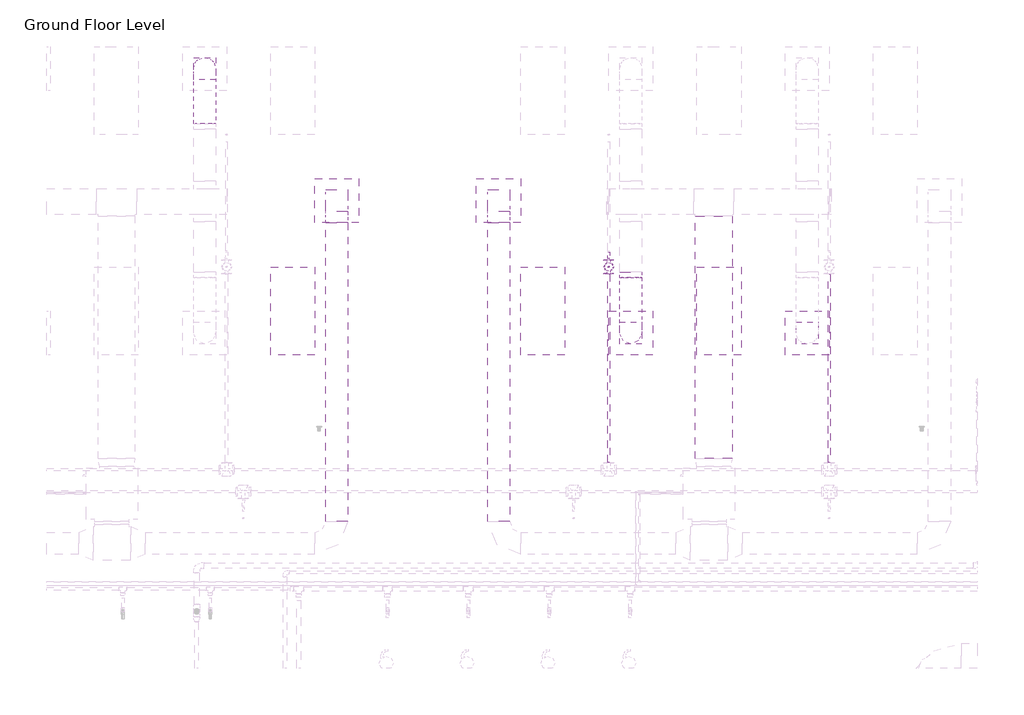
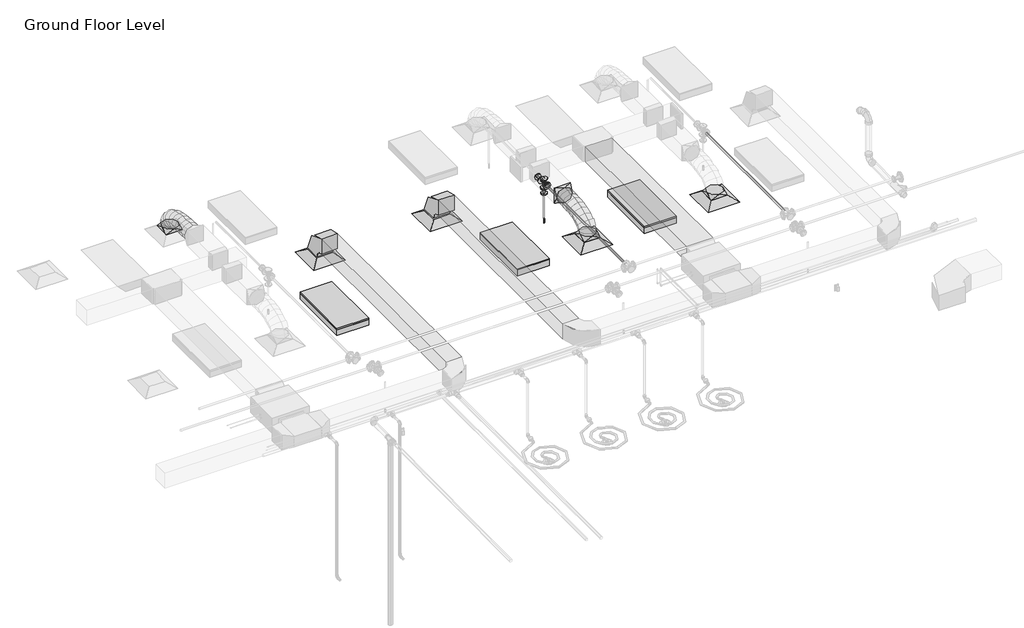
# One storey, part 56 of 74: 7 duct segments, 6 duct fittings, 4 air terminals, 3 light fixtures, 3 pipe fittings, 3 pipe segments, 1 fire suppression terminal.
"""IFC4 building model written with IfcOpenShell, lengths in millimetres."""

from ifc_helpers import new_model, si_unit, point, frame, frame_2d, origin, place, context, project, spatial, polyline, circle_curve, ellipse_curve, trimmed, segment, composite_curve, outline, extrude, transform, mapped, element, save
from ifc_brep_helpers import plane_surface, cylinder_surface, advanced_brep
from components import m_return_diffuser_600_x_600_face_300_x_300_connection_ff221211, m_rectangular_elbow_radius_1_w_618da153, m_rectangular_to_round_transition_angle_45_degree_641efff0, m_sprinkler_dry_pendent_hosted_15_mm_dry_pendent_9bda8e11, m_troffer_light_parabolic_rectangular1_0600x1200mm_4_lamp_86473d4a, m_reducer_flanged_cs_class_150_standard_d42b2106, m_tee_round_base_flanged_cs_class_150_standard_7e5987a1

model = new_model("IFC4")

# Units and contexts
model_context = context("Model", 3, world=origin())
ifc_project = project(units=[si_unit("LENGTHUNIT", "METRE", prefix="MILLI")], contexts=[model_context])

# Site, building, storey
site = spatial("IfcSite", under=ifc_project)
building = spatial("IfcBuilding", under=site)
storey = spatial("IfcBuildingStorey", under=building, Name="Ground Floor Level", Elevation=900.0)

# Air terminals
placement = place(None, origin())
m_return_diffuser_600_x_600_face_300_x_300_connection_shape = m_return_diffuser_600_x_600_face_300_x_300_connection_ff221211(model_context)
element("IfcAirTerminal", 1, ObjectType="M_Return Diffuser : 600 x 600 Face 300 x 300 Connection", at=placement, inside=storey, context=model_context, shape_type="MappedRepresentation", body=[
    mapped(m_return_diffuser_600_x_600_face_300_x_300_connection_shape, transform((-14937.2327605, 18735.2153534, 3650.0), x_axis=(1.0, 0.0, 0.0), y_axis=(0.0, 1.0, 0.0), z_axis=(0.0, 0.0, 1.0))),
])
element("IfcAirTerminal", 2, ObjectType="M_Return Diffuser : 600 x 600 Face 300 x 300 Connection", at=placement, inside=storey, context=model_context, shape_type="MappedRepresentation", body=[
    mapped(m_return_diffuser_600_x_600_face_300_x_300_connection_shape, transform((-12737.2327605, 18735.2153534, 3650.0), x_axis=(1.0, 0.0, 0.0), y_axis=(0.0, 1.0, 0.0), z_axis=(0.0, 0.0, 1.0))),
])
element("IfcAirTerminal", 3, ObjectType="M_Supply Diffuser : 600 x 600 Face 300 x 300 Connection", at=placement, inside=storey, context=model_context, shape_type="MappedRepresentation", body=[
    mapped(m_return_diffuser_600_x_600_face_300_x_300_connection_shape, transform((-10937.2327605, 16935.2153534, 3650.0), x_axis=(1.0, 0.0, 0.0), y_axis=(0.0, 1.0, 0.0), z_axis=(0.0, 0.0, 1.0))),
])
element("IfcAirTerminal", 4, ObjectType="M_Supply Diffuser : 600 x 600 Face 300 x 300 Connection", at=placement, inside=storey, context=model_context, shape_type="MappedRepresentation", body=[
    mapped(m_return_diffuser_600_x_600_face_300_x_300_connection_shape, transform((-8537.2327605, 16935.2153534, 3650.0), x_axis=(1.0, 0.0, 0.0), y_axis=(0.0, 1.0, 0.0), z_axis=(0.0, 0.0, 1.0))),
])

# Duct fittings
m_rectangular_elbow_radius_1_w_shape = m_rectangular_elbow_radius_1_w_618da153(model_context)
element("IfcDuctFitting", 5, ObjectType="M_Rectangular Elbow - Radius : 1 W", at=placement, inside=storey, context=model_context, shape_type="MappedRepresentation", body=[
    mapped(m_rectangular_elbow_radius_1_w_shape, transform((-14937.2327605, 18735.2153534, 4075.2881511), x_axis=(0.0, 0.0, 1.0), y_axis=(0.0, -1.0, 0.0), z_axis=(1.0, 0.0, 0.0))),
])
element("IfcDuctFitting", 6, ObjectType="M_Rectangular Elbow - Radius : 1 W", at=placement, inside=storey, context=model_context, shape_type="MappedRepresentation", body=[
    mapped(m_rectangular_elbow_radius_1_w_shape, transform((-12737.2327605, 18735.2153534, 4075.2872564), x_axis=(0.0, 0.0, 1.0), y_axis=(0.0, -1.0, 0.0), z_axis=(1.0, 0.0, 0.0))),
])
m_rectangular_to_round_transition_angle_45_degree_shape = m_rectangular_to_round_transition_angle_45_degree_641efff0(model_context)
element("IfcDuctFitting", 7, ObjectType="M_Rectangular to Round Transition - Angle : 45 Degree", at=placement, inside=storey, context=model_context, shape_type="MappedRepresentation", body=[
    mapped(m_rectangular_to_round_transition_angle_45_degree_shape, transform((-16737.2327605, 20535.2153534, 3751.6), x_axis=(0.0, 0.0, 1.0), y_axis=(-1.0, 0.0, 0.0), z_axis=(0.0, -1.0, 0.0))),
])
element("IfcDuctFitting", 8, ObjectType="M_Rectangular to Round Transition - Angle : 45 Degree", at=placement, inside=storey, context=model_context, shape_type="MappedRepresentation", body=[
    mapped(m_rectangular_to_round_transition_angle_45_degree_shape, transform((-10937.2327605, 16935.2153534, 3751.6), x_axis=(0.0, 0.0, 1.0), y_axis=(-1.0, 0.0, 0.0), z_axis=(0.0, -1.0, 0.0))),
])
element("IfcDuctFitting", 9, ObjectType="M_Rectangular to Round Transition - Angle : 45 Degree", at=placement, inside=storey, context=model_context, shape_type="MappedRepresentation", body=[
    mapped(m_rectangular_to_round_transition_angle_45_degree_shape, transform((-10937.2327605, 17762.5527048, 4099.9985799), x_axis=(0.0, -1.0, 0.0), y_axis=(1.0, 0.0, 0.0), z_axis=(0.0, 0.0, 1.0))),
])
element("IfcDuctFitting", 10, ObjectType="M_Rectangular to Round Transition - Angle : 45 Degree", at=placement, inside=storey, context=model_context, shape_type="MappedRepresentation", body=[
    mapped(m_rectangular_to_round_transition_angle_45_degree_shape, transform((-8537.2327605, 16935.2153534, 3751.6), x_axis=(0.0, 0.0, 1.0), y_axis=(-1.0, 0.0, 0.0), z_axis=(0.0, -1.0, 0.0))),
])

# Duct segments
element("IfcDuctSegment", 11, ObjectType="Flex - Round", at=placement, inside=storey, context=model_context, shape_type="AdvancedBrep", body=[
    advanced_brep(
    [(-16587.2327605, 20535.2153534, 3826.6), (-16737.2327605, 20385.2153534, 3826.6), (-16887.2327605, 20535.2153534, 3826.6), (-16737.2327605, 20685.2153534, 3826.6), (-16587.2327605, 20535.2153534, 3857.9377382), (-16737.2327605, 20385.2153534, 3832.2944832), (-16887.2327605, 20535.2153534, 3857.9377382), (-16737.2327605, 20685.2153534, 3883.5809933), (-16587.2327605, 20518.1994031, 3906.2505845), (-16737.2327605, 20384.4614644, 3834.4349763), (-16887.2327605, 20518.1994031, 3906.2505845), (-16737.2327605, 20651.9373419, 3978.0661927), (-16587.2327605, 20471.0154746, 3968.7112839), (-16737.2327605, 20366.8096846, 3857.8018842), (-16887.2327605, 20471.0154746, 3968.7112839), (-16737.2327605, 20575.2212646, 4079.6206836), (-16587.2327605, 20399.4594512, 4016.069955), (-16737.2327605, 20330.5255676, 3881.8161806), (-16887.2327605, 20399.4594512, 4016.069955), (-16737.2327605, 20468.3933347, 4150.3237294), (-16587.2327605, 20309.3272161, 4050.4144545), (-16737.2327605, 20265.7666411, 3906.4922903), (-16887.2327605, 20309.3272161, 4050.4144545), (-16737.2327605, 20352.8877912, 4194.3366186), (-16587.2327605, 20206.4146528, 4073.832639), (-16737.2327605, 20179.8539072, 3926.0420925), (-16887.2327605, 20206.4146528, 4073.832639), (-16737.2327605, 20232.9753985, 4221.6231855), (-16587.2327605, 20096.5176446, 4088.4123653), (-16737.2327605, 20081.3668973, 3939.1080865), (-16887.2327605, 20096.5176446, 4088.4123653), (-16737.2327605, 20111.668392, 4237.7166441), (-16587.2327605, 19985.4320749, 4096.2414901), (-16737.2327605, 19977.9268673, 3946.3983665), (-16887.2327605, 19985.4320749, 4096.2414901), (-16737.2327605, 19992.9372825, 4246.0846137), (-16587.2327605, 19878.9538269, 4099.4078701), (-16737.2327605, 19876.2624046, 3949.4215972), (-16887.2327605, 19878.9538269, 4099.4078701), (-16737.2327605, 19881.6452491, 4249.3941429), (-16587.2327605, 19782.878784, 4099.9993619), (-16737.2327605, 19783.8022506, 4249.9965192), (-16887.2327605, 19782.878784, 4099.9993619), (-16737.2327605, 19781.9553174, 3950.0022045)],
    [
        (0, 1, circle_curve(frame((-16737.2327605, 20535.2153534, 3826.6), z_axis=(0.0, 0.0, -1.0), x_axis=(1.0, 0.0, 0.0)), 150.0)),
        (1, 2, circle_curve(frame((-16737.2327605, 20535.2153534, 3826.6), z_axis=(0.0, 0.0, -1.0), x_axis=(1.0, 0.0, 0.0)), 150.0)),
        (2, 3, circle_curve(frame((-16737.2327605, 20535.2153534, 3826.6), z_axis=(0.0, 0.0, -1.0), x_axis=(1.0, 0.0, 0.0)), 150.0)),
        (3, 0, circle_curve(frame((-16737.2327605, 20535.2153534, 3826.6), z_axis=(0.0, 0.0, -1.0), x_axis=(1.0, 0.0, 0.0)), 150.0)),
        (0, 4),
        (4, 5, ellipse_curve(frame((-16737.2327605, 20535.2153534, 3857.9377382), z_axis=(0.0, 0.16851035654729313, -0.9856998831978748), x_axis=(0.0, -0.9856998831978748, -0.16851035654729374)), 152.1761365, 150.0)),
        (5, 1),
        (5, 6, ellipse_curve(frame((-16737.2327605, 20535.2153534, 3857.9377382), z_axis=(0.0, 0.16851035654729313, -0.9856998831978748), x_axis=(0.0, -0.9856998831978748, -0.16851035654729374)), 152.1761365, 150.0)),
        (6, 2),
        (6, 7, ellipse_curve(frame((-16737.2327605, 20535.2153534, 3857.9377382), z_axis=(0.0, 0.16851035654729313, -0.9856998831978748), x_axis=(0.0, -0.9856998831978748, -0.16851035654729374)), 152.1761365, 150.0)),
        (7, 3),
        (7, 4, ellipse_curve(frame((-16737.2327605, 20535.2153534, 3857.9377382), z_axis=(0.0, 0.16851035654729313, -0.9856998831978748), x_axis=(0.0, -0.9856998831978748, -0.16851035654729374)), 152.1761365, 150.0)),
        (4, 8),
        (8, 9, ellipse_curve(frame((-16737.2327605, 20518.1994031, 3906.2505845), z_axis=(0.0, 0.47309279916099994, -0.8810126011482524), x_axis=(0.0, -0.8810126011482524, -0.4730927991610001)), 151.8002564, 150.0)),
        (9, 5),
        (9, 10, ellipse_curve(frame((-16737.2327605, 20518.1994031, 3906.2505845), z_axis=(0.0, 0.47309279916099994, -0.8810126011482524), x_axis=(0.0, -0.8810126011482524, -0.4730927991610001)), 151.8002564, 150.0)),
        (10, 6),
        (10, 11, ellipse_curve(frame((-16737.2327605, 20518.1994031, 3906.2505845), z_axis=(0.0, 0.47309279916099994, -0.8810126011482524), x_axis=(0.0, -0.8810126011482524, -0.4730927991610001)), 151.8002564, 150.0)),
        (11, 7),
        (11, 8, ellipse_curve(frame((-16737.2327605, 20518.1994031, 3906.2505845), z_axis=(0.0, 0.47309279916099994, -0.8810126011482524), x_axis=(0.0, -0.8810126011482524, -0.4730927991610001)), 151.8002564, 150.0)),
        (8, 12),
        (12, 13, ellipse_curve(frame((-16737.2327605, 20471.0154746, 3968.7112839), z_axis=(0.0, 0.7287884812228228, -0.6847388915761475), x_axis=(0.0, -0.6847388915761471, -0.7287884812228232)), 152.1832501, 150.0)),
        (13, 9),
        (13, 14, ellipse_curve(frame((-16737.2327605, 20471.0154746, 3968.7112839), z_axis=(0.0, 0.7287884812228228, -0.6847388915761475), x_axis=(0.0, -0.6847388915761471, -0.7287884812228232)), 152.1832501, 150.0)),
        (14, 10),
        (14, 15, ellipse_curve(frame((-16737.2327605, 20471.0154746, 3968.7112839), z_axis=(0.0, 0.7287884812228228, -0.6847388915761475), x_axis=(0.0, -0.6847388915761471, -0.7287884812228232)), 152.1832501, 150.0)),
        (15, 11),
        (15, 12, ellipse_curve(frame((-16737.2327605, 20471.0154746, 3968.7112839), z_axis=(0.0, 0.7287884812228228, -0.6847388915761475), x_axis=(0.0, -0.6847388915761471, -0.7287884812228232)), 152.1832501, 150.0)),
        (12, 16),
        (16, 17, ellipse_curve(frame((-16737.2327605, 20399.4594512, 4016.069955), z_axis=(0.0, 0.8895865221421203, -0.4567667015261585), x_axis=(0.0, -0.45676670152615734, -0.8895865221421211)), 150.9170508, 150.0)),
        (17, 13),
        (17, 18, ellipse_curve(frame((-16737.2327605, 20399.4594512, 4016.069955), z_axis=(0.0, 0.8895865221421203, -0.4567667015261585), x_axis=(0.0, -0.45676670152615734, -0.8895865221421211)), 150.9170508, 150.0)),
        (18, 14),
        (18, 19, ellipse_curve(frame((-16737.2327605, 20399.4594512, 4016.069955), z_axis=(0.0, 0.8895865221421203, -0.4567667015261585), x_axis=(0.0, -0.45676670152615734, -0.8895865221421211)), 150.9170508, 150.0)),
        (19, 15),
        (19, 16, ellipse_curve(frame((-16737.2327605, 20399.4594512, 4016.069955), z_axis=(0.0, 0.8895865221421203, -0.4567667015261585), x_axis=(0.0, -0.45676670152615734, -0.8895865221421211)), 150.9170508, 150.0)),
        (16, 20),
        (20, 21, ellipse_curve(frame((-16737.2327605, 20309.3272161, 4050.4144545), z_axis=(0.0, 0.9571207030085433, -0.28968941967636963), x_axis=(0.0, -0.2896894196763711, -0.9571207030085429)), 150.3699206, 150.0)),
        (21, 17),
        (21, 22, ellipse_curve(frame((-16737.2327605, 20309.3272161, 4050.4144545), z_axis=(0.0, 0.9571207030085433, -0.28968941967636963), x_axis=(0.0, -0.2896894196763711, -0.9571207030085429)), 150.3699206, 150.0)),
        (22, 18),
        (22, 23, ellipse_curve(frame((-16737.2327605, 20309.3272161, 4050.4144545), z_axis=(0.0, 0.9571207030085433, -0.28968941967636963), x_axis=(0.0, -0.2896894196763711, -0.9571207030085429)), 150.3699206, 150.0)),
        (23, 19),
        (23, 20, ellipse_curve(frame((-16737.2327605, 20309.3272161, 4050.4144545), z_axis=(0.0, 0.9571207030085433, -0.28968941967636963), x_axis=(0.0, -0.2896894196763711, -0.9571207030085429)), 150.3699206, 150.0)),
        (20, 24),
        (24, 25, ellipse_curve(frame((-16737.2327605, 20206.4146528, 4073.832639), z_axis=(0.0, 0.9842315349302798, -0.17688495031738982), x_axis=(0.0, -0.1768849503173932, -0.9842315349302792)), 150.1583126, 150.0)),
        (25, 21),
        (25, 26, ellipse_curve(frame((-16737.2327605, 20206.4146528, 4073.832639), z_axis=(0.0, 0.9842315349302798, -0.17688495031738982), x_axis=(0.0, -0.1768849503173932, -0.9842315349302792)), 150.1583126, 150.0)),
        (26, 22),
        (26, 27, ellipse_curve(frame((-16737.2327605, 20206.4146528, 4073.832639), z_axis=(0.0, 0.9842315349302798, -0.17688495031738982), x_axis=(0.0, -0.1768849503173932, -0.9842315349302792)), 150.1583126, 150.0)),
        (27, 23),
        (27, 24, ellipse_curve(frame((-16737.2327605, 20206.4146528, 4073.832639), z_axis=(0.0, 0.9842315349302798, -0.17688495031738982), x_axis=(0.0, -0.1768849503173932, -0.9842315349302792)), 150.1583126, 150.0)),
        (24, 28),
        (28, 29, ellipse_curve(frame((-16737.2327605, 20096.5176446, 4088.4123653), z_axis=(0.0, 0.9948907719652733, -0.10095717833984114), x_axis=(0.0, -0.10095717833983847, -0.9948907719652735)), 150.0710259, 150.0)),
        (29, 25),
        (29, 30, ellipse_curve(frame((-16737.2327605, 20096.5176446, 4088.4123653), z_axis=(0.0, 0.9948907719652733, -0.10095717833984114), x_axis=(0.0, -0.10095717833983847, -0.9948907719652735)), 150.0710259, 150.0)),
        (30, 26),
        (30, 31, ellipse_curve(frame((-16737.2327605, 20096.5176446, 4088.4123653), z_axis=(0.0, 0.9948907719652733, -0.10095717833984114), x_axis=(0.0, -0.10095717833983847, -0.9948907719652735)), 150.0710259, 150.0)),
        (31, 27),
        (31, 28, ellipse_curve(frame((-16737.2327605, 20096.5176446, 4088.4123653), z_axis=(0.0, 0.9948907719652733, -0.10095717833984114), x_axis=(0.0, -0.10095717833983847, -0.9948907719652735)), 150.0710259, 150.0)),
        (28, 32),
        (32, 33, ellipse_curve(frame((-16737.2327605, 19985.4320749, 4096.2414901), z_axis=(0.0, 0.9987479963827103, -0.050024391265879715), x_axis=(0.0, -0.05002439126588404, -0.9987479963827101)), 150.0309629, 150.0)),
        (33, 29),
        (33, 34, ellipse_curve(frame((-16737.2327605, 19985.4320749, 4096.2414901), z_axis=(0.0, 0.9987479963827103, -0.050024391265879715), x_axis=(0.0, -0.05002439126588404, -0.9987479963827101)), 150.0309629, 150.0)),
        (34, 30),
        (34, 35, ellipse_curve(frame((-16737.2327605, 19985.4320749, 4096.2414901), z_axis=(0.0, 0.9987479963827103, -0.050024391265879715), x_axis=(0.0, -0.05002439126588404, -0.9987479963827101)), 150.0309629, 150.0)),
        (35, 31),
        (35, 32, ellipse_curve(frame((-16737.2327605, 19985.4320749, 4096.2414901), z_axis=(0.0, 0.9987479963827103, -0.050024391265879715), x_axis=(0.0, -0.05002439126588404, -0.9987479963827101)), 150.0309629, 150.0)),
        (32, 36),
        (36, 37, ellipse_curve(frame((-16737.2327605, 19878.9538269, 4099.4078701), z_axis=(0.0, 0.9998390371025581, -0.01794156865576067), x_axis=(0.0, -0.017941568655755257, -0.9998390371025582)), 150.0104189, 150.0)),
        (37, 33),
        (37, 38, ellipse_curve(frame((-16737.2327605, 19878.9538269, 4099.4078701), z_axis=(0.0, 0.9998390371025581, -0.01794156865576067), x_axis=(0.0, -0.017941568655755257, -0.9998390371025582)), 150.0104189, 150.0)),
        (38, 34),
        (38, 39, ellipse_curve(frame((-16737.2327605, 19878.9538269, 4099.4078701), z_axis=(0.0, 0.9998390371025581, -0.01794156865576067), x_axis=(0.0, -0.017941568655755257, -0.9998390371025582)), 150.0104189, 150.0)),
        (39, 35),
        (39, 36, ellipse_curve(frame((-16737.2327605, 19878.9538269, 4099.4078701), z_axis=(0.0, 0.9998390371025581, -0.01794156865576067), x_axis=(0.0, -0.017941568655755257, -0.9998390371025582)), 150.0104189, 150.0)),
        (40, 41, circle_curve(frame((-16737.2327605, 19782.878784, 4099.9993619), z_axis=(0.0, -0.9999810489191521, 0.0061564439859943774), x_axis=(1.0, 0.0, 0.0)), 150.0)),
        (41, 42, circle_curve(frame((-16737.2327605, 19782.878784, 4099.9993619), z_axis=(0.0, -0.9999810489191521, 0.0061564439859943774), x_axis=(1.0, 0.0, 0.0)), 150.0)),
        (42, 43, circle_curve(frame((-16737.2327605, 19782.878784, 4099.9993619), z_axis=(0.0, -0.9999810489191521, 0.0061564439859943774), x_axis=(1.0, 0.0, 0.0)), 150.0)),
        (43, 40, circle_curve(frame((-16737.2327605, 19782.878784, 4099.9993619), z_axis=(0.0, -0.9999810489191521, 0.0061564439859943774), x_axis=(1.0, 0.0, 0.0)), 150.0)),
        (36, 40),
        (43, 37),
        (42, 38),
        (41, 39),
    ],
    [
        plane_surface(frame((-16737.2327605, 20385.2153534, 3826.6), z_axis=(0.0, 0.0, -1.0), x_axis=(1.0, 0.0, 0.0))),
        cylinder_surface(frame((-16737.2327605, 20535.2153534, 3826.6), z_axis=(0.0, 0.0, -1.0), x_axis=(1.0, 0.0, 0.0)), 150.0),
        cylinder_surface(frame((-16737.2327605, 20535.2153534, 3857.9377382), z_axis=(0.0, 0.33220127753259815, -0.9432085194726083), x_axis=(1.0, 0.0, 0.0)), 150.0),
        cylinder_surface(frame((-16737.2327605, 20518.1994031, 3906.2505845), z_axis=(0.0, 0.6027631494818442, -0.79792016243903), x_axis=(1.0, 0.0, 0.0)), 150.0),
        cylinder_surface(frame((-16737.2327605, 20471.0154746, 3968.7112839), z_axis=(0.0, 0.833903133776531, -0.5519108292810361), x_axis=(1.0, 0.0, 0.0)), 150.0),
        cylinder_surface(frame((-16737.2327605, 20399.4594512, 4016.069955), z_axis=(0.0, 0.9344587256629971, -0.3560714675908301), x_axis=(1.0, 0.0, 0.0)), 150.0),
        cylinder_surface(frame((-16737.2327605, 20309.3272161, 4050.4144545), z_axis=(0.0, 0.9750735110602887, -0.22188205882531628), x_axis=(1.0, 0.0, 0.0)), 150.0),
        cylinder_surface(frame((-16737.2327605, 20206.4146528, 4073.832639), z_axis=(0.0, 0.9913141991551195, -0.13151486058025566), x_axis=(1.0, 0.0, 0.0)), 150.0),
        cylinder_surface(frame((-16737.2327605, 20096.5176446, 4088.4123653), z_axis=(0.0, 0.997525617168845, -0.07030393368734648), x_axis=(1.0, 0.0, 0.0)), 150.0),
        cylinder_surface(frame((-16737.2327605, 19985.4320749, 4096.2414901), z_axis=(0.0, 0.9995581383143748, -0.029724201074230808), x_axis=(1.0, 0.0, 0.0)), 150.0),
        plane_surface(frame((-16737.2327605, 19781.9553174, 3950.0022045), z_axis=(0.0, -0.999981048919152, 0.0061564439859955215), x_axis=(1.0, 0.0, 0.0))),
        cylinder_surface(frame((-16737.2327605, 19878.9538269, 4099.4078701), z_axis=(0.0, 0.9999810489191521, -0.0061564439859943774), x_axis=(1.0, 0.0, 0.0)), 150.0),
    ],
    [
        (0, [[1, 2, 3, 4]]),
        (1, [[-1, 5, 6, 7]]),
        (1, [[-2, -7, 8, 9]]),
        (1, [[-3, -9, 10, 11]]),
        (1, [[-4, -11, 12, -5]]),
        (2, [[-6, 13, 14, 15]]),
        (2, [[-8, -15, 16, 17]]),
        (2, [[-10, -17, 18, 19]]),
        (2, [[-12, -19, 20, -13]]),
        (3, [[-14, 21, 22, 23]]),
        (3, [[-16, -23, 24, 25]]),
        (3, [[-18, -25, 26, 27]]),
        (3, [[-20, -27, 28, -21]]),
        (4, [[-22, 29, 30, 31]]),
        (4, [[-24, -31, 32, 33]]),
        (4, [[-26, -33, 34, 35]]),
        (4, [[-28, -35, 36, -29]]),
        (5, [[-30, 37, 38, 39]]),
        (5, [[-32, -39, 40, 41]]),
        (5, [[-34, -41, 42, 43]]),
        (5, [[-36, -43, 44, -37]]),
        (6, [[-38, 45, 46, 47]]),
        (6, [[-40, -47, 48, 49]]),
        (6, [[-42, -49, 50, 51]]),
        (6, [[-44, -51, 52, -45]]),
        (7, [[-46, 53, 54, 55]]),
        (7, [[-48, -55, 56, 57]]),
        (7, [[-50, -57, 58, 59]]),
        (7, [[-52, -59, 60, -53]]),
        (8, [[-54, 61, 62, 63]]),
        (8, [[-56, -63, 64, 65]]),
        (8, [[-58, -65, 66, 67]]),
        (8, [[-60, -67, 68, -61]]),
        (9, [[-62, 69, 70, 71]]),
        (9, [[-64, -71, 72, 73]]),
        (9, [[-66, -73, 74, 75]]),
        (9, [[-68, -75, 76, -69]]),
        (10, [[77, 78, 79, 80]]),
        (11, [[-70, 81, -80, 82]]),
        (11, [[-72, -82, -79, 83]]),
        (11, [[-74, -83, -78, 84]]),
        (11, [[-76, -84, -77, -81]]),
    ],
),
])
element("IfcDuctSegment", 12, ObjectType="Flex - Round", at=placement, inside=storey, context=model_context, shape_type="AdvancedBrep", body=[
    advanced_brep(
    [(-10787.2327605, 16935.2153534, 3826.6), (-10937.2327605, 16785.2153534, 3826.6), (-11087.2327605, 16935.2153534, 3826.6), (-10937.2327605, 17085.2153534, 3826.6), (-10787.2327605, 16935.2153534, 3857.9377711), (-10937.2327605, 16785.2153534, 3883.5810662), (-11087.2327605, 16935.2153534, 3857.9377711), (-10937.2327605, 17085.2153534, 3832.2944759), (-10787.2327605, 16952.2313253, 3906.2505987), (-10937.2327605, 16818.4934358, 3978.0663103), (-11087.2327605, 16952.2313253, 3906.2505987), (-10937.2327605, 17085.9692148, 3834.4348871), (-10787.2327605, 16999.4153129, 3968.7112481), (-10937.2327605, 16895.2096567, 4079.620783), (-11087.2327605, 16999.4153129, 3968.7112481), (-10937.2327605, 17103.620969, 3857.8017132), (-10787.2327605, 17070.9714237, 4016.0698216), (-10937.2327605, 17002.0377511, 4150.3237055), (-11087.2327605, 17070.9714237, 4016.0698216), (-10937.2327605, 17139.9050963, 3881.8159377), (-10787.2327605, 17161.1037654, 4050.4141926), (-10937.2327605, 17117.5434209, 4194.3364261), (-11087.2327605, 17161.1037654, 4050.4141926), (-10937.2327605, 17204.6641099, 3906.491959), (-10787.2327605, 17264.0164456, 4073.8322345), (-10937.2327605, 17237.4559185, 4221.6228196), (-11087.2327605, 17264.0164456, 4073.8322345), (-10937.2327605, 17290.5769728, 3926.0416493), (-10787.2327605, 17373.9135721, 4088.4118207), (-10937.2327605, 17358.7630147, 4237.7161183), (-11087.2327605, 17373.9135721, 4088.4118207), (-10937.2327605, 17389.0641294, 3939.1075232), (-10787.2327605, 17484.9992523, 4096.2408248), (-10937.2327605, 17477.4941925, 4246.0839553), (-11087.2327605, 17484.9992523, 4096.2408248), (-10937.2327605, 17492.5043121, 3946.3976942), (-10787.2327605, 17591.477594, 4099.40712), (-10937.2327605, 17588.7862586, 4249.393394), (-11087.2327605, 17591.477594, 4099.40712), (-10937.2327605, 17594.1689294, 3949.4208461), (-10787.2327605, 17687.5527048, 4099.9985799), (-10937.2327605, 17688.4761208, 3950.0014223), (-11087.2327605, 17687.5527048, 4099.9985799), (-10937.2327605, 17686.6292887, 4249.9957376)],
    [
        (0, 1, circle_curve(frame((-10937.2327605, 16935.2153534, 3826.6), z_axis=(0.0, 0.0, -1.0), x_axis=(1.0, 0.0, 0.0)), 150.0)),
        (1, 2, circle_curve(frame((-10937.2327605, 16935.2153534, 3826.6), z_axis=(0.0, 0.0, -1.0), x_axis=(1.0, 0.0, 0.0)), 150.0)),
        (2, 3, circle_curve(frame((-10937.2327605, 16935.2153534, 3826.6), z_axis=(0.0, 0.0, -1.0), x_axis=(1.0, 0.0, 0.0)), 150.0)),
        (3, 0, circle_curve(frame((-10937.2327605, 16935.2153534, 3826.6), z_axis=(0.0, 0.0, -1.0), x_axis=(1.0, 0.0, 0.0)), 150.0)),
        (0, 4),
        (4, 5, ellipse_curve(frame((-10937.2327605, 16935.2153534, 3857.9377711), z_axis=(0.0, -0.1685106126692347, -0.9856998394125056), x_axis=(0.0, 0.9856998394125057, -0.16851061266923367)), 152.1761433, 150.0)),
        (5, 1),
        (5, 6, ellipse_curve(frame((-10937.2327605, 16935.2153534, 3857.9377711), z_axis=(0.0, -0.1685106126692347, -0.9856998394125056), x_axis=(0.0, 0.9856998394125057, -0.16851061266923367)), 152.1761433, 150.0)),
        (6, 2),
        (6, 7, ellipse_curve(frame((-10937.2327605, 16935.2153534, 3857.9377711), z_axis=(0.0, -0.1685106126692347, -0.9856998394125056), x_axis=(0.0, 0.9856998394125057, -0.16851061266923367)), 152.1761433, 150.0)),
        (7, 3),
        (7, 4, ellipse_curve(frame((-10937.2327605, 16935.2153534, 3857.9377711), z_axis=(0.0, -0.1685106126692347, -0.9856998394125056), x_axis=(0.0, 0.9856998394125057, -0.16851061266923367)), 152.1761433, 150.0)),
        (4, 8),
        (8, 9, ellipse_curve(frame((-10937.2327605, 16952.2313253, 3906.2505987), z_axis=(0.0, -0.4730934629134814, -0.8810122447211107), x_axis=(0.0, 0.8810122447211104, -0.473093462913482)), 151.8002619, 150.0)),
        (9, 5),
        (9, 10, ellipse_curve(frame((-10937.2327605, 16952.2313253, 3906.2505987), z_axis=(0.0, -0.4730934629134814, -0.8810122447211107), x_axis=(0.0, 0.8810122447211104, -0.473093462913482)), 151.8002619, 150.0)),
        (10, 6),
        (10, 11, ellipse_curve(frame((-10937.2327605, 16952.2313253, 3906.2505987), z_axis=(0.0, -0.4730934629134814, -0.8810122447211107), x_axis=(0.0, 0.8810122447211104, -0.473093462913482)), 151.8002619, 150.0)),
        (11, 7),
        (11, 8, ellipse_curve(frame((-10937.2327605, 16952.2313253, 3906.2505987), z_axis=(0.0, -0.4730934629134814, -0.8810122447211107), x_axis=(0.0, 0.8810122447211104, -0.473093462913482)), 151.8002619, 150.0)),
        (8, 12),
        (12, 13, ellipse_curve(frame((-10937.2327605, 16999.4153129, 3968.7112481), z_axis=(0.0, -0.728789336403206, -0.6847379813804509), x_axis=(0.0, 0.6847379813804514, -0.7287893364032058)), 152.183257, 150.0)),
        (13, 9),
        (13, 14, ellipse_curve(frame((-10937.2327605, 16999.4153129, 3968.7112481), z_axis=(0.0, -0.728789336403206, -0.6847379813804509), x_axis=(0.0, 0.6847379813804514, -0.7287893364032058)), 152.183257, 150.0)),
        (14, 10),
        (14, 15, ellipse_curve(frame((-10937.2327605, 16999.4153129, 3968.7112481), z_axis=(0.0, -0.728789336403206, -0.6847379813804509), x_axis=(0.0, 0.6847379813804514, -0.7287893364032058)), 152.183257, 150.0)),
        (15, 11),
        (15, 12, ellipse_curve(frame((-10937.2327605, 16999.4153129, 3968.7112481), z_axis=(0.0, -0.728789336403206, -0.6847379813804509), x_axis=(0.0, 0.6847379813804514, -0.7287893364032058)), 152.183257, 150.0)),
        (12, 16),
        (16, 17, ellipse_curve(frame((-10937.2327605, 17070.9714237, 4016.0698216), z_axis=(0.0, -0.8895872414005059, -0.45676530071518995), x_axis=(0.0, 0.4567653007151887, -0.8895872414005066)), 150.9170519, 150.0)),
        (17, 13),
        (17, 18, ellipse_curve(frame((-10937.2327605, 17070.9714237, 4016.0698216), z_axis=(0.0, -0.8895872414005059, -0.45676530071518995), x_axis=(0.0, 0.4567653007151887, -0.8895872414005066)), 150.9170519, 150.0)),
        (18, 14),
        (18, 19, ellipse_curve(frame((-10937.2327605, 17070.9714237, 4016.0698216), z_axis=(0.0, -0.8895872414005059, -0.45676530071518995), x_axis=(0.0, 0.4567653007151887, -0.8895872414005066)), 150.9170519, 150.0)),
        (19, 15),
        (19, 16, ellipse_curve(frame((-10937.2327605, 17070.9714237, 4016.0698216), z_axis=(0.0, -0.8895872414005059, -0.45676530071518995), x_axis=(0.0, 0.4567653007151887, -0.8895872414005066)), 150.9170519, 150.0)),
        (16, 20),
        (20, 21, ellipse_curve(frame((-10937.2327605, 17161.1037654, 4050.4141926), z_axis=(0.0, -0.9571211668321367, -0.28968788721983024), x_axis=(0.0, 0.2896878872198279, -0.9571211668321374)), 150.3699202, 150.0)),
        (21, 17),
        (21, 22, ellipse_curve(frame((-10937.2327605, 17161.1037654, 4050.4141926), z_axis=(0.0, -0.9571211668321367, -0.28968788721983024), x_axis=(0.0, 0.2896878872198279, -0.9571211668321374)), 150.3699202, 150.0)),
        (22, 18),
        (22, 23, ellipse_curve(frame((-10937.2327605, 17161.1037654, 4050.4141926), z_axis=(0.0, -0.9571211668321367, -0.28968788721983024), x_axis=(0.0, 0.2896878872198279, -0.9571211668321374)), 150.3699202, 150.0)),
        (23, 19),
        (23, 20, ellipse_curve(frame((-10937.2327605, 17161.1037654, 4050.4141926), z_axis=(0.0, -0.9571211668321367, -0.28968788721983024), x_axis=(0.0, 0.2896878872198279, -0.9571211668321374)), 150.3699202, 150.0)),
        (20, 24),
        (24, 25, ellipse_curve(frame((-10937.2327605, 17264.0164456, 4073.8322345), z_axis=(0.0, -0.9842317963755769, -0.17688349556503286), x_axis=(0.0, 0.17688349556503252, -0.9842317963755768)), 150.158312, 150.0)),
        (25, 21),
        (25, 26, ellipse_curve(frame((-10937.2327605, 17264.0164456, 4073.8322345), z_axis=(0.0, -0.9842317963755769, -0.17688349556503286), x_axis=(0.0, 0.17688349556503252, -0.9842317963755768)), 150.158312, 150.0)),
        (26, 22),
        (26, 27, ellipse_curve(frame((-10937.2327605, 17264.0164456, 4073.8322345), z_axis=(0.0, -0.9842317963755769, -0.17688349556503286), x_axis=(0.0, 0.17688349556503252, -0.9842317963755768)), 150.158312, 150.0)),
        (27, 23),
        (27, 24, ellipse_curve(frame((-10937.2327605, 17264.0164456, 4073.8322345), z_axis=(0.0, -0.9842317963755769, -0.17688349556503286), x_axis=(0.0, 0.17688349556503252, -0.9842317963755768)), 150.158312, 150.0)),
        (24, 28),
        (28, 29, ellipse_curve(frame((-10937.2327605, 17373.9135721, 4088.4118207), z_axis=(0.0, -0.9948909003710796, -0.10095591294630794), x_axis=(0.0, 0.10095591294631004, -0.9948909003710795)), 150.0710253, 150.0)),
        (29, 25),
        (29, 30, ellipse_curve(frame((-10937.2327605, 17373.9135721, 4088.4118207), z_axis=(0.0, -0.9948909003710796, -0.10095591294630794), x_axis=(0.0, 0.10095591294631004, -0.9948909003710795)), 150.0710253, 150.0)),
        (30, 26),
        (30, 31, ellipse_curve(frame((-10937.2327605, 17373.9135721, 4088.4118207), z_axis=(0.0, -0.9948909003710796, -0.10095591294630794), x_axis=(0.0, 0.10095591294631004, -0.9948909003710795)), 150.0710253, 150.0)),
        (31, 27),
        (31, 28, ellipse_curve(frame((-10937.2327605, 17373.9135721, 4088.4118207), z_axis=(0.0, -0.9948909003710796, -0.10095591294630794), x_axis=(0.0, 0.10095591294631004, -0.9948909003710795)), 150.0710253, 150.0)),
        (28, 32),
        (32, 33, ellipse_curve(frame((-10937.2327605, 17484.9992523, 4096.2408248), z_axis=(0.0, -0.998748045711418, -0.0500234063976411), x_axis=(0.0, 0.050023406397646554, -0.9987480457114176)), 150.0309624, 150.0)),
        (33, 29),
        (33, 34, ellipse_curve(frame((-10937.2327605, 17484.9992523, 4096.2408248), z_axis=(0.0, -0.998748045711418, -0.0500234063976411), x_axis=(0.0, 0.050023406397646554, -0.9987480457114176)), 150.0309624, 150.0)),
        (34, 30),
        (34, 35, ellipse_curve(frame((-10937.2327605, 17484.9992523, 4096.2408248), z_axis=(0.0, -0.998748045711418, -0.0500234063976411), x_axis=(0.0, 0.050023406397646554, -0.9987480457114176)), 150.0309624, 150.0)),
        (35, 31),
        (35, 32, ellipse_curve(frame((-10937.2327605, 17484.9992523, 4096.2408248), z_axis=(0.0, -0.998748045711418, -0.0500234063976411), x_axis=(0.0, 0.050023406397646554, -0.9987480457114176)), 150.0309624, 150.0)),
        (32, 36),
        (36, 37, ellipse_curve(frame((-10937.2327605, 17591.477594, 4099.40712), z_axis=(0.0, -0.9998390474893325, -0.01794098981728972), x_axis=(0.0, 0.017940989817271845, -0.9998390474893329)), 150.0104185, 150.0)),
        (37, 33),
        (37, 38, ellipse_curve(frame((-10937.2327605, 17591.477594, 4099.40712), z_axis=(0.0, -0.9998390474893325, -0.01794098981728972), x_axis=(0.0, 0.017940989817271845, -0.9998390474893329)), 150.0104185, 150.0)),
        (38, 34),
        (38, 39, ellipse_curve(frame((-10937.2327605, 17591.477594, 4099.40712), z_axis=(0.0, -0.9998390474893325, -0.01794098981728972), x_axis=(0.0, 0.017940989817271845, -0.9998390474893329)), 150.0104185, 150.0)),
        (39, 35),
        (39, 36, ellipse_curve(frame((-10937.2327605, 17591.477594, 4099.40712), z_axis=(0.0, -0.9998390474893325, -0.01794098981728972), x_axis=(0.0, 0.017940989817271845, -0.9998390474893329)), 150.0104185, 150.0)),
        (40, 41, circle_curve(frame((-10937.2327605, 17687.5527048, 4099.9985799), z_axis=(0.0, 0.9999810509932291, 0.00615610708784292), x_axis=(1.0, 0.0, 0.0)), 150.0)),
        (41, 42, circle_curve(frame((-10937.2327605, 17687.5527048, 4099.9985799), z_axis=(0.0, 0.9999810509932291, 0.00615610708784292), x_axis=(1.0, 0.0, 0.0)), 150.0)),
        (42, 43, circle_curve(frame((-10937.2327605, 17687.5527048, 4099.9985799), z_axis=(0.0, 0.9999810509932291, 0.00615610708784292), x_axis=(1.0, 0.0, 0.0)), 150.0)),
        (43, 40, circle_curve(frame((-10937.2327605, 17687.5527048, 4099.9985799), z_axis=(0.0, 0.9999810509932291, 0.00615610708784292), x_axis=(1.0, 0.0, 0.0)), 150.0)),
        (36, 40),
        (43, 37),
        (42, 38),
        (41, 39),
    ],
    [
        plane_surface(frame((-10937.2327605, 16785.2153534, 3826.6), z_axis=(0.0, 0.0, -1.0), x_axis=(1.0, 0.0, 0.0))),
        cylinder_surface(frame((-10937.2327605, 16935.2153534, 3826.6), z_axis=(0.0, 0.0, -1.0), x_axis=(1.0, 0.0, 0.0)), 150.0),
        cylinder_surface(frame((-10937.2327605, 16935.2153534, 3857.9377711), z_axis=(0.0, -0.3322017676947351, -0.9432083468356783), x_axis=(1.0, 0.0, 0.0)), 150.0),
        cylinder_surface(frame((-10937.2327605, 16952.2313253, 3906.2505987), z_axis=(0.0, -0.6027639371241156, -0.7979195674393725), x_axis=(1.0, 0.0, 0.0)), 150.0),
        cylinder_surface(frame((-10937.2327605, 16999.4153129, 3968.7112481), z_axis=(0.0, -0.8339039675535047, -0.551909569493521), x_axis=(1.0, 0.0, 0.0)), 150.0),
        cylinder_surface(frame((-10937.2327605, 17070.9714237, 4016.0698216), z_axis=(0.0, -0.9344593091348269, -0.3560699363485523), x_axis=(1.0, 0.0, 0.0)), 150.0),
        cylinder_surface(frame((-10937.2327605, 17161.1037654, 4050.4141926), z_axis=(0.0, -0.9750738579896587, -0.22188053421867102), x_axis=(1.0, 0.0, 0.0)), 150.0),
        cylinder_surface(frame((-10937.2327605, 17264.0164456, 4073.8322345), z_axis=(0.0, -0.9913143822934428, -0.13151348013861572), x_axis=(1.0, 0.0, 0.0)), 150.0),
        cylinder_surface(frame((-10937.2327605, 17373.9135721, 4088.4118207), z_axis=(0.0, -0.9975256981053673, -0.0703027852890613), x_axis=(1.0, 0.0, 0.0)), 150.0),
        cylinder_surface(frame((-10937.2327605, 17484.9992523, 4096.2408248), z_axis=(0.0, -0.9995581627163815, -0.029723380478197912), x_axis=(1.0, 0.0, 0.0)), 150.0),
        plane_surface(frame((-10937.2327605, 17686.6292887, 4249.9957376), z_axis=(0.0, 0.9999810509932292, 0.006156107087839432), x_axis=(1.0, 0.0, 0.0))),
        cylinder_surface(frame((-10937.2327605, 17591.477594, 4099.40712), z_axis=(0.0, -0.9999810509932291, -0.00615610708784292), x_axis=(1.0, 0.0, 0.0)), 150.0),
    ],
    [
        (0, [[1, 2, 3, 4]]),
        (1, [[-1, 5, 6, 7]]),
        (1, [[-2, -7, 8, 9]]),
        (1, [[-3, -9, 10, 11]]),
        (1, [[-4, -11, 12, -5]]),
        (2, [[-6, 13, 14, 15]]),
        (2, [[-8, -15, 16, 17]]),
        (2, [[-10, -17, 18, 19]]),
        (2, [[-12, -19, 20, -13]]),
        (3, [[-14, 21, 22, 23]]),
        (3, [[-16, -23, 24, 25]]),
        (3, [[-18, -25, 26, 27]]),
        (3, [[-20, -27, 28, -21]]),
        (4, [[-22, 29, 30, 31]]),
        (4, [[-24, -31, 32, 33]]),
        (4, [[-26, -33, 34, 35]]),
        (4, [[-28, -35, 36, -29]]),
        (5, [[-30, 37, 38, 39]]),
        (5, [[-32, -39, 40, 41]]),
        (5, [[-34, -41, 42, 43]]),
        (5, [[-36, -43, 44, -37]]),
        (6, [[-38, 45, 46, 47]]),
        (6, [[-40, -47, 48, 49]]),
        (6, [[-42, -49, 50, 51]]),
        (6, [[-44, -51, 52, -45]]),
        (7, [[-46, 53, 54, 55]]),
        (7, [[-48, -55, 56, 57]]),
        (7, [[-50, -57, 58, 59]]),
        (7, [[-52, -59, 60, -53]]),
        (8, [[-54, 61, 62, 63]]),
        (8, [[-56, -63, 64, 65]]),
        (8, [[-58, -65, 66, 67]]),
        (8, [[-60, -67, 68, -61]]),
        (9, [[-62, 69, 70, 71]]),
        (9, [[-64, -71, 72, 73]]),
        (9, [[-66, -73, 74, 75]]),
        (9, [[-68, -75, 76, -69]]),
        (10, [[77, 78, 79, 80]]),
        (11, [[-70, 81, -80, 82]]),
        (11, [[-72, -82, -79, 83]]),
        (11, [[-74, -83, -78, 84]]),
        (11, [[-76, -84, -77, -81]]),
    ],
),
])
element("IfcDuctSegment", 13, ObjectType="Radius Elbows / Taps", at=placement, inside=storey, context=model_context, shape_type="SweptSolid", body=[
    extrude(outline(polyline([(-9558.7327605, 15224.0945822), (-10058.7327605, 15224.0945822), (-10058.7327605, 18524.6783949), (-9558.7327605, 18524.6783949), (-9558.7327605, 15224.0945822)])), frame((0.0, 0.0, 3950.0), z_axis=(0.0, 0.0, 1.0), x_axis=(1.0, 0.0, 0.0)), (0.0, 0.0, 1.0), 300.0),
])
element("IfcDuctSegment", 14, ObjectType="Radius Elbows / Taps", at=placement, inside=storey, context=model_context, shape_type="SweptSolid", body=[
    extrude(outline(polyline([(-14787.2327605, 14369.8153534), (-15087.2327605, 14369.8153534), (-15087.2327605, 18435.2153534), (-14787.2327605, 18435.2153534), (-14787.2327605, 14369.8153534)])), frame((0.0, 0.0, 3925.2881511), z_axis=(0.0, 0.0, 1.0), x_axis=(1.0, 0.0, 0.0)), (0.0, 0.0, 1.0), 300.0),
])
element("IfcDuctSegment", 15, ObjectType="Radius Elbows / Taps", at=placement, inside=storey, context=model_context, shape_type="SweptSolid", body=[
    extrude(outline(polyline([(-14787.2327605, 18585.2153534), (-15087.2327605, 18585.2153534), (-15087.2327605, 18885.2153534), (-14787.2327605, 18885.2153534), (-14787.2327605, 18585.2153534)])), frame((0.0, 0.0, 3751.6), z_axis=(0.0, 0.0, 1.0), x_axis=(1.0, 0.0, 0.0)), (0.0, 0.0, 1.0), 23.6881511),
])
element("IfcDuctSegment", 16, ObjectType="Radius Elbows / Taps", at=placement, inside=storey, context=model_context, shape_type="SweptSolid", body=[
    extrude(outline(polyline([(-12587.2327605, 14369.8153534), (-12887.2327605, 14369.8153534), (-12887.2327605, 18435.2153534), (-12587.2327605, 18435.2153534), (-12587.2327605, 14369.8153534)])), frame((0.0, 0.0, 3925.2872564), z_axis=(0.0, 0.0, 1.0), x_axis=(1.0, 0.0, 0.0)), (0.0, 0.0, 1.0), 300.0),
])
element("IfcDuctSegment", 17, ObjectType="Radius Elbows / Taps", at=placement, inside=storey, context=model_context, shape_type="SweptSolid", body=[
    extrude(outline(polyline([(-12587.2327605, 18585.2153534), (-12887.2327605, 18585.2153534), (-12887.2327605, 18885.2153534), (-12587.2327605, 18885.2153534), (-12587.2327605, 18585.2153534)])), frame((0.0, 0.0, 3751.6), z_axis=(0.0, 0.0, 1.0), x_axis=(1.0, 0.0, 0.0)), (0.0, 0.0, 1.0), 23.6872564),
])

# Fire suppression terminal
m_sprinkler_dry_pendent_hosted_15_mm_dry_pendent_shape = m_sprinkler_dry_pendent_hosted_15_mm_dry_pendent_9bda8e11(model_context)
element("IfcFireSuppressionTerminal", 18, ObjectType="M_Sprinkler - Dry - Pendent - Hosted : 15 mm Dry Pendent", at=placement, inside=storey, context=model_context, shape_type="MappedRepresentation", body=[
    mapped(m_sprinkler_dry_pendent_hosted_15_mm_dry_pendent_shape, transform((-11237.2327605, 17835.2153534, 3650.0), x_axis=(1.0, 0.0, 0.0), y_axis=(0.0, -1.0, 0.0), z_axis=(0.0, 0.0, -1.0))),
])

# Light fixtures
m_troffer_light_parabolic_rectangular1_0600x1200mm_4_lamp_shape = m_troffer_light_parabolic_rectangular1_0600x1200mm_4_lamp_86473d4a(model_context)
element("IfcLightFixture", 19, ObjectType="M_Troffer Light - Parabolic Rectangular1 : 0600x1200mm(4 Lamp) - 277V 2", at=placement, inside=storey, context=model_context, shape_type="MappedRepresentation", body=[
    mapped(m_troffer_light_parabolic_rectangular1_0600x1200mm_4_lamp_shape, transform((-15596.6986926, 17253.918855, 3650.0), x_axis=(0.0, 1.0, 0.0), y_axis=(-1.0, 0.0, 0.0), z_axis=(0.0, 0.0, 1.0))),
])
element("IfcLightFixture", 20, ObjectType="M_Troffer Light - Parabolic Rectangular1 : 0600x1200mm(4 Lamp) - 277V 2", at=placement, inside=storey, context=model_context, shape_type="MappedRepresentation", body=[
    mapped(m_troffer_light_parabolic_rectangular1_0600x1200mm_4_lamp_shape, transform((-12196.6986926, 17253.918855, 3650.0), x_axis=(0.0, 1.0, 0.0), y_axis=(-1.0, 0.0, 0.0), z_axis=(0.0, 0.0, 1.0))),
])
element("IfcLightFixture", 21, ObjectType="M_Troffer Light - Parabolic Rectangular1 : 0600x1200mm(4 Lamp) - 277V 2", at=placement, inside=storey, context=model_context, shape_type="MappedRepresentation", body=[
    mapped(m_troffer_light_parabolic_rectangular1_0600x1200mm_4_lamp_shape, transform((-9796.6986926, 17253.918855, 3650.0), x_axis=(0.0, 1.0, 0.0), y_axis=(-1.0, 0.0, 0.0), z_axis=(0.0, 0.0, 1.0))),
])

# Pipe fittings
m_reducer_flanged_cs_class_150_standard_shape = m_reducer_flanged_cs_class_150_standard_d42b2106(model_context)
element("IfcPipeFitting", 22, ObjectType="M_Reducer - Flanged - CS - Class 150 : Standard", at=placement, inside=storey, context=model_context, shape_type="MappedRepresentation", body=[
    mapped(m_reducer_flanged_cs_class_150_standard_shape, transform((-11237.2327605, 17935.9239471, 4360.0), x_axis=(0.0, 1.0, 0.0), y_axis=(-1.0, 0.0, 0.0), z_axis=(0.0, 0.0, 1.0))),
])
element("IfcPipeFitting", 23, ObjectType="M_Reducer - Flanged - CS - Class 150 : Standard", at=placement, inside=storey, context=model_context, shape_type="MappedRepresentation", body=[
    mapped(m_reducer_flanged_cs_class_150_standard_shape, transform((-11237.2327605, 17835.2153534, 4259.2914063), x_axis=(0.0, 0.0, -1.0), y_axis=(-1.0, 0.0, 0.0), z_axis=(0.0, 1.0, 0.0))),
])
m_tee_round_base_flanged_cs_class_150_standard_shape = m_tee_round_base_flanged_cs_class_150_standard_7e5987a1(model_context)
element("IfcPipeFitting", 24, ObjectType="M_Tee Round Base - Flanged - CS - Class 150 : Standard", at=placement, inside=storey, context=model_context, shape_type="MappedRepresentation", body=[
    mapped(m_tee_round_base_flanged_cs_class_150_standard_shape, transform((-11237.2327605, 17835.2153534, 4360.0), x_axis=(0.0, 1.0, 0.0), y_axis=(0.0, 0.0, 1.0), z_axis=(1.0, 0.0, 0.0))),
])

# Pipe segments
element("IfcPipeSegment", 25, ObjectType="Steel flanged", at=placement, inside=storey, context=model_context, shape_type="SweptSolid", body=[
    extrude(outline(composite_curve([segment(trimmed(circle_curve(frame_2d((-11237.2327605, 17835.2153534)), 10.668), [point((-11247.9007605, 17835.2153534))], [point((-11237.2327605, 17845.8833534))], False, "CARTESIAN"), True, "CONTINUOUS"), segment(trimmed(circle_curve(frame_2d((-11237.2327605, 17835.2153534)), 10.668), [point((-11237.2327605, 17845.8833534))], [point((-11226.5647605, 17835.2153534))], False, "CARTESIAN"), True, "CONTINUOUS"), segment(trimmed(circle_curve(frame_2d((-11237.2327605, 17835.2153534)), 10.668), [point((-11226.5647605, 17835.2153534))], [point((-11237.2327605, 17824.5473534))], False, "CARTESIAN"), True, "CONTINUOUS"), segment(trimmed(circle_curve(frame_2d((-11237.2327605, 17835.2153534)), 10.668), [point((-11237.2327605, 17824.5473534))], [point((-11247.9007605, 17835.2153534))], False, "CARTESIAN"), True, "CONTINUOUS")], self_intersect=False)), frame((0.0, 0.0, 3650.0), z_axis=(0.0, 0.0, 1.0), x_axis=(1.0, 0.0, 0.0)), (0.0, 0.0, 1.0), 495.2914063),
])
element("IfcPipeSegment", 26, ObjectType="Steel flanged", at=placement, inside=storey, context=model_context, shape_type="SweptSolid", body=[
    extrude(outline(composite_curve([segment(trimmed(circle_curve(frame_2d((4360.0, -11237.2327605)), 16.7005), [point((4360.0, -11253.9332605))], [point((4343.2995, -11237.2327605))], False, "CARTESIAN"), True, "CONTINUOUS"), segment(trimmed(circle_curve(frame_2d((4360.0, -11237.2327605)), 16.7005), [point((4343.2995, -11237.2327605))], [point((4360.0, -11220.5322605))], False, "CARTESIAN"), True, "CONTINUOUS"), segment(trimmed(circle_curve(frame_2d((4360.0, -11237.2327605)), 16.7005), [point((4360.0, -11220.5322605))], [point((4376.7005, -11237.2327605))], False, "CARTESIAN"), True, "CONTINUOUS"), segment(trimmed(circle_curve(frame_2d((4360.0, -11237.2327605)), 16.7005), [point((4376.7005, -11237.2327605))], [point((4360.0, -11253.9332605))], False, "CARTESIAN"), True, "CONTINUOUS")], self_intersect=False)), frame((0.0, 15173.9095765, 0.0), z_axis=(0.0, 1.0, 0.0), x_axis=(0.0, 0.0, 1.0)), (0.0, 0.0, 1.0), 2560.5971831),
])
element("IfcPipeSegment", 27, ObjectType="Steel flanged", at=placement, inside=storey, context=model_context, shape_type="SweptSolid", body=[
    extrude(outline(composite_curve([segment(trimmed(circle_curve(frame_2d((4360.0, -8237.2327605)), 16.7005), [point((4360.0, -8253.9332605))], [point((4343.2995, -8237.2327605))], False, "CARTESIAN"), True, "CONTINUOUS"), segment(trimmed(circle_curve(frame_2d((4360.0, -8237.2327605)), 16.7005), [point((4343.2995, -8237.2327605))], [point((4360.0, -8220.5322605))], False, "CARTESIAN"), True, "CONTINUOUS"), segment(trimmed(circle_curve(frame_2d((4360.0, -8237.2327605)), 16.7005), [point((4360.0, -8220.5322605))], [point((4376.7005, -8237.2327605))], False, "CARTESIAN"), True, "CONTINUOUS"), segment(trimmed(circle_curve(frame_2d((4360.0, -8237.2327605)), 16.7005), [point((4376.7005, -8237.2327605))], [point((4360.0, -8253.9332605))], False, "CARTESIAN"), True, "CONTINUOUS")], self_intersect=False)), frame((0.0, 15173.9095765, 0.0), z_axis=(0.0, 1.0, 0.0), x_axis=(0.0, 0.0, 1.0)), (0.0, 0.0, 1.0), 2560.5971831),
])

save(model, "model.ifc")
